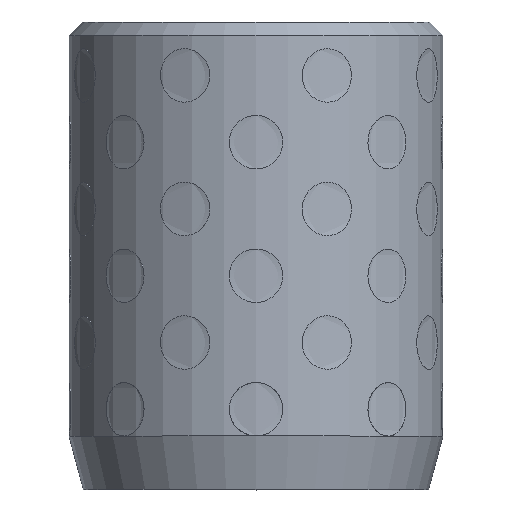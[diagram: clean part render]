
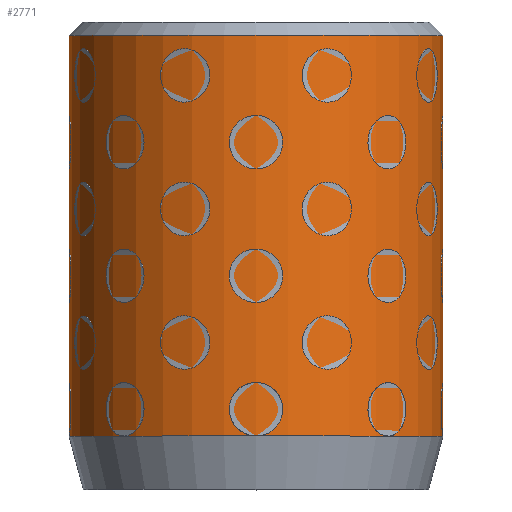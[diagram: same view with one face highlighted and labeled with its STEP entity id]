
A CAD part, top view. The second image highlights one B-rep face of the part: STEP entity #2771.
In plain terms, the highlighted cylindrical face has radius 14 mm (diameter 28 mm), a full revolution.
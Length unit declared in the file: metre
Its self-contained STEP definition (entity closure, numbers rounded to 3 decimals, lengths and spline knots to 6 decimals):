
#2771 = ADVANCED_FACE( '', ( #2961, #2962 ), #2963, .T. );
#2961 = FACE_OUTER_BOUND( '', #3377, .T. );
#2962 = FACE_OUTER_BOUND( '', #3378, .T. );
#2963 = CYLINDRICAL_SURFACE( '', #3379, 0.014 );
#3377 = EDGE_LOOP( '', ( #3805 ) );
#3378 = EDGE_LOOP( '', ( #3806 ) );
#3379 = AXIS2_PLACEMENT_3D( '', #3807, #3808, #3809 );
#3805 = ORIENTED_EDGE( '', *, *, #4550, .T. );
#3806 = ORIENTED_EDGE( '', *, *, #4549, .F. );
#3807 = CARTESIAN_POINT( '', ( 0., 0., 0. ) );
#3808 = DIRECTION( '', ( 0., 1., 0. ) );
#3809 = DIRECTION( '', ( 0., 0., -1. ) );
#4549 = EDGE_CURVE( '', #4675, #4675, #4676, .T. );
#4550 = EDGE_CURVE( '', #4677, #4677, #4678, .T. );
#4675 = VERTEX_POINT( '', #4915 );
#4676 = CIRCLE( '', #4916, 0.014 );
#4677 = VERTEX_POINT( '', #4917 );
#4678 = CIRCLE( '', #4918, 0.014 );
#4915 = CARTESIAN_POINT( '', ( 0., 0.004, -0.014 ) );
#4916 = AXIS2_PLACEMENT_3D( '', #11097, #11098, #11099 );
#4917 = CARTESIAN_POINT( '', ( 0., 0.034, -0.014 ) );
#4918 = AXIS2_PLACEMENT_3D( '', #11100, #11101, #11102 );
#11097 = CARTESIAN_POINT( '', ( 0., 0.004, 0. ) );
#11098 = DIRECTION( '', ( 0., -1., 0. ) );
#11099 = DIRECTION( '', ( 0., 0., -1. ) );
#11100 = CARTESIAN_POINT( '', ( 0., 0.034, 0. ) );
#11101 = DIRECTION( '', ( 0., -1., 0. ) );
#11102 = DIRECTION( '', ( 0., 0., -1. ) );
